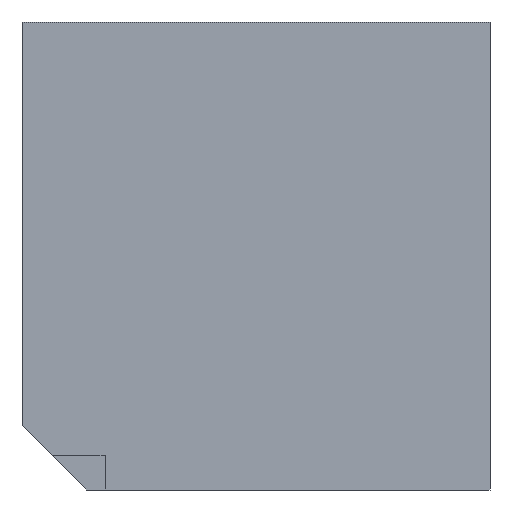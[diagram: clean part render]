
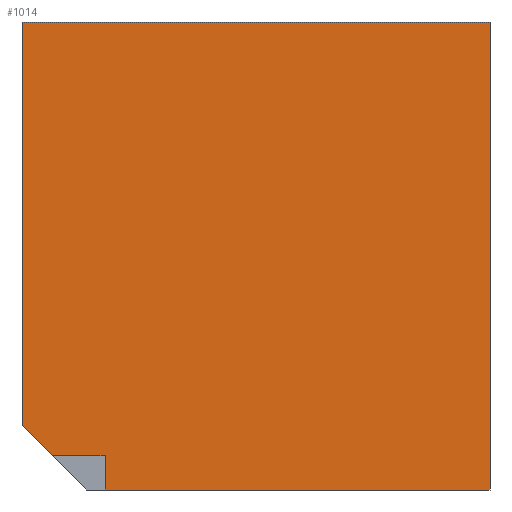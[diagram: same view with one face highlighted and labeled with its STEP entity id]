
A CAD part, left-side view. The second image highlights one B-rep face of the part: STEP entity #1014.
In plain terms, the highlighted planar face has unit normal (-1, 0, 0).
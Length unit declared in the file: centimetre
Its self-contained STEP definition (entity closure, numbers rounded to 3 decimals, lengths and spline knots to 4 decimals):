
#1 = VECTOR ( 'NONE', #94, 100. ) ;
#10 = VECTOR ( 'NONE', #61, 100. ) ;
#19 = CARTESIAN_POINT ( 'NONE',  ( 0., 1000., 1000. ) ) ;
#20 = VERTEX_POINT ( 'NONE', #96 ) ;
#31 = VERTEX_POINT ( 'NONE', #670 ) ;
#61 = DIRECTION ( 'NONE',  ( 0., -0.707, -0.707 ) ) ;
#69 = VECTOR ( 'NONE', #1458, 100. ) ;
#94 = DIRECTION ( 'NONE',  ( 0., -1., 0. ) ) ;
#96 = CARTESIAN_POINT ( 'NONE',  ( 0., 822.5451, 0. ) ) ;
#101 = CARTESIAN_POINT ( 'NONE',  ( 0., 822.5451, 73.0843 ) ) ;
#146 = CARTESIAN_POINT ( 'NONE',  ( 0., 0., 1000. ) ) ;
#181 = CARTESIAN_POINT ( 'NONE',  ( 0., 1000., 138.2173 ) ) ;
#195 = CARTESIAN_POINT ( 'NONE',  ( 0., 1000., 1000. ) ) ;
#217 = CARTESIAN_POINT ( 'NONE',  ( 0., 1000., 1000. ) ) ;
#221 = CARTESIAN_POINT ( 'NONE',  ( 0., 822.5451, 73.0843 ) ) ;
#226 = ORIENTED_EDGE ( 'NONE', *, *, #1027, .F. ) ;
#239 = LINE ( 'NONE', #935, #1118 ) ;
#256 = LINE ( 'NONE', #146, #1443 ) ;
#264 = DIRECTION ( 'NONE',  ( 0., 0., -1. ) ) ;
#289 = VECTOR ( 'NONE', #996, 100. ) ;
#293 = ORIENTED_EDGE ( 'NONE', *, *, #637, .T. ) ;
#324 = CARTESIAN_POINT ( 'NONE',  ( 0., 1000., 138.2173 ) ) ;
#326 = EDGE_CURVE ( 'NONE', #469, #959, #744, .T. ) ;
#435 = AXIS2_PLACEMENT_3D ( 'NONE', #19, #499, #264 ) ;
#466 = EDGE_LOOP ( 'NONE', ( #226, #904, #1209, #1134, #1223, #293, #1049 ) ) ;
#469 = VERTEX_POINT ( 'NONE', #324 ) ;
#499 = DIRECTION ( 'NONE',  ( 1., 0., 0. ) ) ;
#506 = VERTEX_POINT ( 'NONE', #1012 ) ;
#531 = DIRECTION ( 'NONE',  ( 0., 0., -1. ) ) ;
#637 = EDGE_CURVE ( 'NONE', #1231, #469, #876, .T. ) ;
#638 = VERTEX_POINT ( 'NONE', #101 ) ;
#666 = DIRECTION ( 'NONE',  ( 0., 0., -1. ) ) ;
#670 = CARTESIAN_POINT ( 'NONE',  ( 0., 0., 0. ) ) ;
#744 = LINE ( 'NONE', #181, #10 ) ;
#752 = LINE ( 'NONE', #981, #289 ) ;
#804 = DIRECTION ( 'NONE',  ( 0., 1., 0. ) ) ;
#876 = LINE ( 'NONE', #217, #1144 ) ;
#904 = ORIENTED_EDGE ( 'NONE', *, *, #1434, .T. ) ;
#935 = CARTESIAN_POINT ( 'NONE',  ( 0., 822.5451, 73.0843 ) ) ;
#959 = VERTEX_POINT ( 'NONE', #1161 ) ;
#981 = CARTESIAN_POINT ( 'NONE',  ( 0., 1000., 0. ) ) ;
#996 = DIRECTION ( 'NONE',  ( 0., -1., 0. ) ) ;
#1012 = CARTESIAN_POINT ( 'NONE',  ( 0., 0., 1000. ) ) ;
#1014 = ADVANCED_FACE ( 'NONE', ( #1044 ), #1035, .F. ) ;
#1027 = EDGE_CURVE ( 'NONE', #638, #959, #239, .T. ) ;
#1035 = PLANE ( 'NONE',  #435 ) ;
#1044 = FACE_OUTER_BOUND ( 'NONE', #466, .T. ) ;
#1049 = ORIENTED_EDGE ( 'NONE', *, *, #326, .T. ) ;
#1111 = EDGE_CURVE ( 'NONE', #506, #31, #256, .T. ) ;
#1118 = VECTOR ( 'NONE', #804, 100. ) ;
#1134 = ORIENTED_EDGE ( 'NONE', *, *, #1111, .F. ) ;
#1144 = VECTOR ( 'NONE', #666, 100. ) ;
#1161 = CARTESIAN_POINT ( 'NONE',  ( 0., 934.867, 73.0843 ) ) ;
#1180 = EDGE_CURVE ( 'NONE', #20, #31, #752, .T. ) ;
#1202 = EDGE_CURVE ( 'NONE', #1231, #506, #1432, .T. ) ;
#1209 = ORIENTED_EDGE ( 'NONE', *, *, #1180, .T. ) ;
#1223 = ORIENTED_EDGE ( 'NONE', *, *, #1202, .F. ) ;
#1229 = LINE ( 'NONE', #221, #69 ) ;
#1231 = VERTEX_POINT ( 'NONE', #195 ) ;
#1417 = CARTESIAN_POINT ( 'NONE',  ( 0., 1000., 1000. ) ) ;
#1432 = LINE ( 'NONE', #1417, #1 ) ;
#1434 = EDGE_CURVE ( 'NONE', #638, #20, #1229, .T. ) ;
#1443 = VECTOR ( 'NONE', #531, 100. ) ;
#1458 = DIRECTION ( 'NONE',  ( 0., 0., -1. ) ) ;
